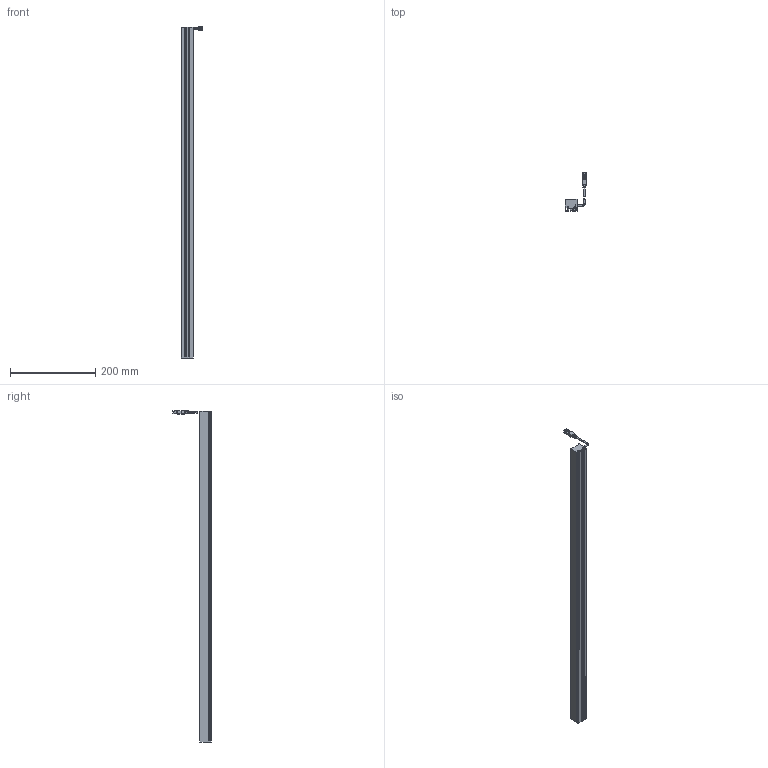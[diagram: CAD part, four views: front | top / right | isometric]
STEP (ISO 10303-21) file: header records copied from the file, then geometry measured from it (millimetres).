
FILE_DESCRIPTION((''),'2;1');
FILE_NAME('28_ASM','2022-02-24T',('RSDNRD0010'),(''),'PRO/ENGINEER BY PARAMETRIC TECHNOLOGY CORPORATION, 2010100','PRO/ENGINEER BY PARAMETRIC TECHNOLOGY CORPORATION, 2010100','');
FILE_SCHEMA(('CONFIG_CONTROL_DESIGN'));
Length unit declared in the file: millimetre
Products named in the file (5): 28; LINE_TOU; BODY_12; ASSY_ASM; 28_ASM
Assembly tree (4 placements, depth 3):
  28_ASM
    28
    ASSY_ASM
      LINE_TOU
      BODY_12
Bounding box: 50.25 x 89.4 x 779.95 mm (x, y, z)
Volume: 494142 mm3; surface area: 135269.5 mm2
Topology: 3 solids, 7 shells, 319 faces, 828 edges, 525 vertices
Faces by surface type: plane 192, cylinder 89, torus 12, cone 10, bspline 8, sphere 8
Entity records: 9957 total; most frequent: CARTESIAN_POINT 1984, DIRECTION 1650, ORIENTED_EDGE 1624, EDGE_CURVE 820, VECTOR 570, LINE 570, AXIS2_PLACEMENT_3D 540, VERTEX_POINT 525
